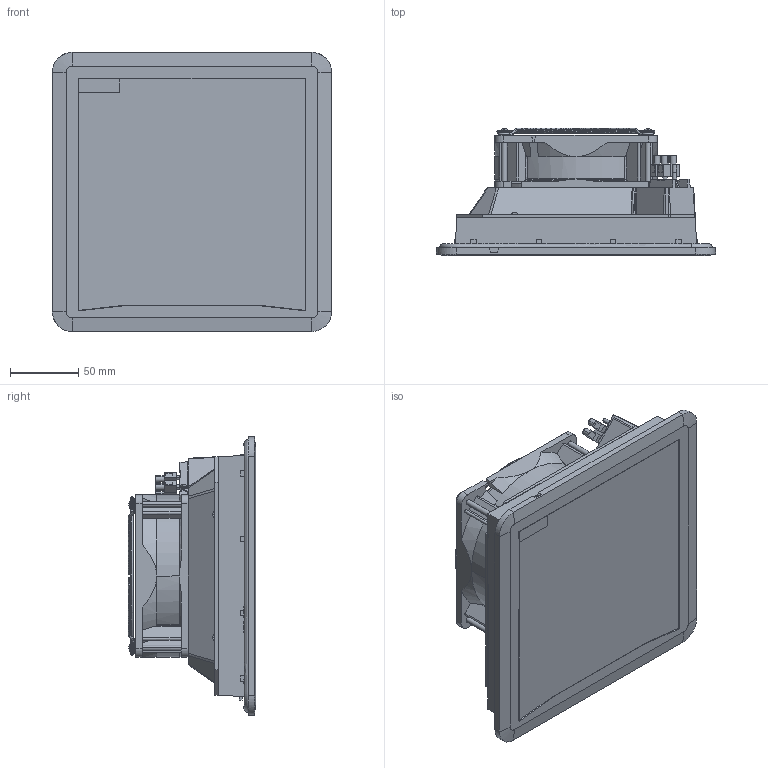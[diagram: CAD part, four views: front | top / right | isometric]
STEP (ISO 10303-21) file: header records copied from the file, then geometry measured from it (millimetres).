
FILE_DESCRIPTION(/* description */ (''),/* implementation_level */ '2;1');
FILE_NAME(/* name */ 'FPF13K~2',/* time_stamp */ '2019-06-06T15:17:57+02:00',/* author */ (''),/* organization */ (''),/* preprocessor_version */ 'ST-DEVELOPER v14',/* originating_system */ '',/* authorisation */ '');
FILE_SCHEMA (('AUTOMOTIVE_DESIGN'));
Length unit declared in the file: millimetre
Products named in the file (1): Document
Bounding box: 204 x 93.3 x 204 mm (x, y, z)
Volume: 22696.1 mm3; surface area: 166543.6 mm2
Topology: 16 solids, 27 shells, 768 faces, 2108 edges, 1376 vertices
Faces by surface type: bspline 398, plane 370
Entity records: 53482 total; most frequent: CARTESIAN_POINT 41042, ORIENTED_EDGE 4027, EDGE_CURVE 2104, VERTEX_POINT 1376, B_SPLINE_CURVE_WITH_KNOTS 1271, EDGE_LOOP 835, ADVANCED_FACE 768, FACE_OUTER_BOUND 768
